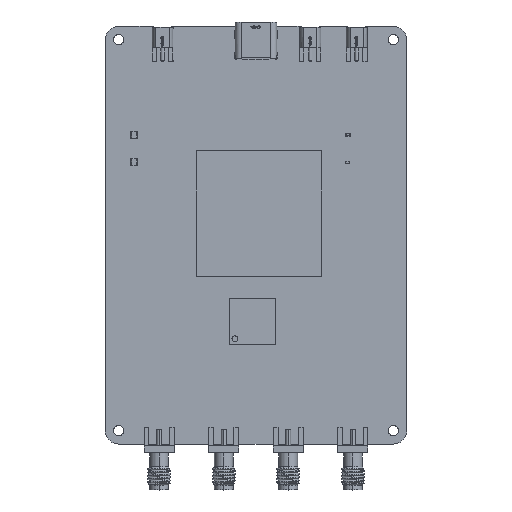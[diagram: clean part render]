
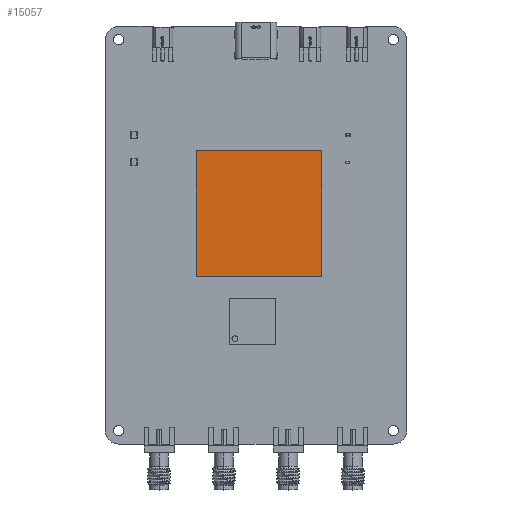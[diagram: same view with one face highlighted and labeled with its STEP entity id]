
A CAD part, top view. The second image highlights one B-rep face of the part: STEP entity #15057.
In plain terms, the highlighted planar face has unit normal (0, 0, 1).
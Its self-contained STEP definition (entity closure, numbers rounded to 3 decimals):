
#14928 = VERTEX_POINT('',#14929);
#14929 = CARTESIAN_POINT('',(13.5,13.5,2.97));
#14935 = EDGE_CURVE('',#14928,#14936,#14938,.T.);
#14936 = VERTEX_POINT('',#14937);
#14937 = CARTESIAN_POINT('',(-13.5,13.5,2.97));
#14938 = LINE('',#14939,#14940);
#14939 = CARTESIAN_POINT('',(13.5,13.5,2.97));
#14940 = VECTOR('',#14941,1.);
#14941 = DIRECTION('',(-1.,0.,0.));
#14966 = EDGE_CURVE('',#14936,#14967,#14969,.T.);
#14967 = VERTEX_POINT('',#14968);
#14968 = CARTESIAN_POINT('',(-13.5,-13.5,2.97));
#14969 = LINE('',#14970,#14971);
#14970 = CARTESIAN_POINT('',(-13.5,13.5,2.97));
#14971 = VECTOR('',#14972,1.);
#14972 = DIRECTION('',(0.,-1.,0.));
#14997 = EDGE_CURVE('',#14967,#14998,#15000,.T.);
#14998 = VERTEX_POINT('',#14999);
#14999 = CARTESIAN_POINT('',(13.5,-13.5,2.97));
#15000 = LINE('',#15001,#15002);
#15001 = CARTESIAN_POINT('',(-13.5,-13.5,2.97));
#15002 = VECTOR('',#15003,1.);
#15003 = DIRECTION('',(1.,0.,0.));
#15028 = EDGE_CURVE('',#14998,#14928,#15029,.T.);
#15029 = LINE('',#15030,#15031);
#15030 = CARTESIAN_POINT('',(13.5,-13.5,2.97));
#15031 = VECTOR('',#15032,1.);
#15032 = DIRECTION('',(0.,1.,0.));
#15057 = ADVANCED_FACE('',(#15058),#15064,.T.);
#15058 = FACE_BOUND('',#15059,.T.);
#15059 = EDGE_LOOP('',(#15060,#15061,#15062,#15063));
#15060 = ORIENTED_EDGE('',*,*,#14935,.T.);
#15061 = ORIENTED_EDGE('',*,*,#14966,.T.);
#15062 = ORIENTED_EDGE('',*,*,#14997,.T.);
#15063 = ORIENTED_EDGE('',*,*,#15028,.T.);
#15064 = PLANE('',#15065);
#15065 = AXIS2_PLACEMENT_3D('',#15066,#15067,#15068);
#15066 = CARTESIAN_POINT('',(0.,0.,
    2.97));
#15067 = DIRECTION('',(0.,0.,1.));
#15068 = DIRECTION('',(1.,0.,-0.));
